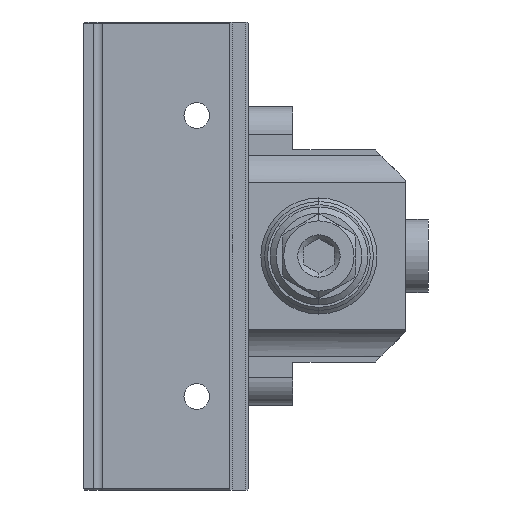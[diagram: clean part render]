
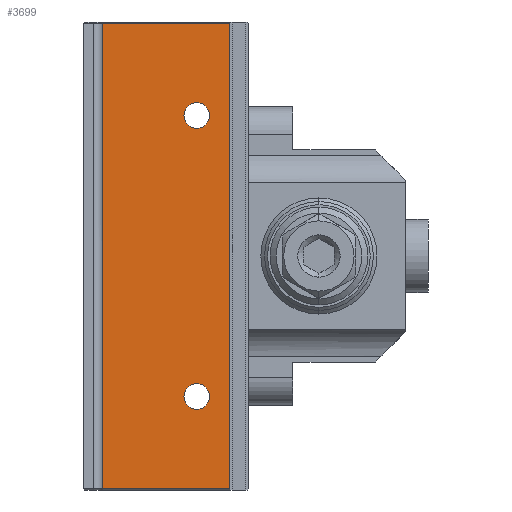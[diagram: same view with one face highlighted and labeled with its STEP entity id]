
A CAD part, left-side view. The second image highlights one B-rep face of the part: STEP entity #3699.
In plain terms, the highlighted planar face has unit normal (-1, 0, 0).
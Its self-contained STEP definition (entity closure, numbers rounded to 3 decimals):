
#40 = ORIENTED_EDGE ( 'NONE', *, *, #4952, .F. ) ;
#57 = FACE_OUTER_BOUND ( 'NONE', #3498, .T. ) ;
#356 = VECTOR ( 'NONE', #6939, 1000. ) ;
#478 = ORIENTED_EDGE ( 'NONE', *, *, #887, .F. ) ;
#540 = CARTESIAN_POINT ( 'NONE',  ( -11.5, 35.5, 38.3 ) ) ;
#541 = DIRECTION ( 'NONE',  ( -1., 0., 0. ) ) ;
#654 = DIRECTION ( 'NONE',  ( -1., 0., 0. ) ) ;
#683 = FACE_BOUND ( 'NONE', #6162, .T. ) ;
#694 = CARTESIAN_POINT ( 'NONE',  ( -11.5, 35.5, -38.1 ) ) ;
#718 = AXIS2_PLACEMENT_3D ( 'NONE', #2304, #654, #1752 ) ;
#856 = VECTOR ( 'NONE', #7240, 1000. ) ;
#887 = EDGE_CURVE ( 'NONE', #5915, #5629, #5281, .T. ) ;
#943 = EDGE_CURVE ( 'NONE', #4422, #5629, #5400, .T. ) ;
#957 = CIRCLE ( 'NONE', #718, 2.1 ) ;
#1229 = VERTEX_POINT ( 'NONE', #6513 ) ;
#1350 = CARTESIAN_POINT ( 'NONE',  ( -11.5, 4.25, -38.1 ) ) ;
#1488 = VECTOR ( 'NONE', #4681, 1000. ) ;
#1752 = DIRECTION ( 'NONE',  ( 0., 0., 1. ) ) ;
#1784 = DIRECTION ( 'NONE',  ( -1., 0., 0. ) ) ;
#1815 = CIRCLE ( 'NONE', #2051, 2.1 ) ;
#2051 = AXIS2_PLACEMENT_3D ( 'NONE', #6968, #541, #5656 ) ;
#2083 = VECTOR ( 'NONE', #7534, 1000. ) ;
#2304 = CARTESIAN_POINT ( 'NONE',  ( -11.5, 20., 23. ) ) ;
#2371 = CARTESIAN_POINT ( 'NONE',  ( -11.5, 14.7, 38.3 ) ) ;
#2372 = PLANE ( 'NONE',  #6230 ) ;
#2411 = FACE_BOUND ( 'NONE', #7101, .T. ) ;
#2473 = CARTESIAN_POINT ( 'NONE',  ( -11.5, 20., -23. ) ) ;
#2575 = AXIS2_PLACEMENT_3D ( 'NONE', #2473, #1784, #6444 ) ;
#2585 = CARTESIAN_POINT ( 'NONE',  ( -11.5, 20., 23. ) ) ;
#2803 = CIRCLE ( 'NONE', #2575, 2.1 ) ;
#3106 = CARTESIAN_POINT ( 'NONE',  ( -11.5, 14.7, 38.1 ) ) ;
#3361 = EDGE_CURVE ( 'NONE', #5915, #6729, #5588, .T. ) ;
#3402 = EDGE_CURVE ( 'NONE', #3982, #5954, #957, .T. ) ;
#3489 = ORIENTED_EDGE ( 'NONE', *, *, #4437, .F. ) ;
#3498 = EDGE_LOOP ( 'NONE', ( #478, #4795, #6473, #4315 ) ) ;
#3519 = CARTESIAN_POINT ( 'NONE',  ( -11.5, 20., -25.1 ) ) ;
#3628 = DIRECTION ( 'NONE',  ( 0., 0., 1. ) ) ;
#3693 = CARTESIAN_POINT ( 'NONE',  ( -11.5, 35.5, 38.1 ) ) ;
#3699 = ADVANCED_FACE ( 'NONE', ( #57, #2411, #683 ), #2372, .T. ) ;
#3903 = VERTEX_POINT ( 'NONE', #3519 ) ;
#3982 = VERTEX_POINT ( 'NONE', #6737 ) ;
#4230 = ORIENTED_EDGE ( 'NONE', *, *, #3402, .F. ) ;
#4315 = ORIENTED_EDGE ( 'NONE', *, *, #943, .T. ) ;
#4422 = VERTEX_POINT ( 'NONE', #694 ) ;
#4437 = EDGE_CURVE ( 'NONE', #1229, #3903, #2803, .T. ) ;
#4670 = CARTESIAN_POINT ( 'NONE',  ( -11.5, 14.7, -38.1 ) ) ;
#4674 = LINE ( 'NONE', #540, #2083 ) ;
#4681 = DIRECTION ( 'NONE',  ( 0., 0., -1. ) ) ;
#4795 = ORIENTED_EDGE ( 'NONE', *, *, #3361, .T. ) ;
#4952 = EDGE_CURVE ( 'NONE', #5954, #3982, #6249, .T. ) ;
#5133 = CARTESIAN_POINT ( 'NONE',  ( -11.5, 4.25, 38.1 ) ) ;
#5281 = LINE ( 'NONE', #2371, #1488 ) ;
#5400 = LINE ( 'NONE', #1350, #856 ) ;
#5402 = DIRECTION ( 'NONE',  ( -1., 0., 0. ) ) ;
#5588 = LINE ( 'NONE', #5133, #356 ) ;
#5629 = VERTEX_POINT ( 'NONE', #4670 ) ;
#5656 = DIRECTION ( 'NONE',  ( 0., 0., 1. ) ) ;
#5915 = VERTEX_POINT ( 'NONE', #3106 ) ;
#5954 = VERTEX_POINT ( 'NONE', #6568 ) ;
#6002 = AXIS2_PLACEMENT_3D ( 'NONE', #2585, #6604, #6015 ) ;
#6015 = DIRECTION ( 'NONE',  ( 0., 0., 1. ) ) ;
#6092 = ORIENTED_EDGE ( 'NONE', *, *, #7070, .F. ) ;
#6162 = EDGE_LOOP ( 'NONE', ( #3489, #6092 ) ) ;
#6230 = AXIS2_PLACEMENT_3D ( 'NONE', #6557, #5402, #3628 ) ;
#6249 = CIRCLE ( 'NONE', #6002, 2.1 ) ;
#6366 = EDGE_CURVE ( 'NONE', #6729, #4422, #4674, .T. ) ;
#6444 = DIRECTION ( 'NONE',  ( 0., 0., 1. ) ) ;
#6473 = ORIENTED_EDGE ( 'NONE', *, *, #6366, .T. ) ;
#6513 = CARTESIAN_POINT ( 'NONE',  ( -11.5, 20., -20.9 ) ) ;
#6557 = CARTESIAN_POINT ( 'NONE',  ( -11.5, 4.25, 24.4 ) ) ;
#6568 = CARTESIAN_POINT ( 'NONE',  ( -11.5, 20., 25.1 ) ) ;
#6604 = DIRECTION ( 'NONE',  ( -1., 0., 0. ) ) ;
#6729 = VERTEX_POINT ( 'NONE', #3693 ) ;
#6737 = CARTESIAN_POINT ( 'NONE',  ( -11.5, 20., 20.9 ) ) ;
#6939 = DIRECTION ( 'NONE',  ( 0., 1., 0. ) ) ;
#6968 = CARTESIAN_POINT ( 'NONE',  ( -11.5, 20., -23. ) ) ;
#7070 = EDGE_CURVE ( 'NONE', #3903, #1229, #1815, .T. ) ;
#7101 = EDGE_LOOP ( 'NONE', ( #40, #4230 ) ) ;
#7240 = DIRECTION ( 'NONE',  ( 0., -1., 0. ) ) ;
#7534 = DIRECTION ( 'NONE',  ( 0., 0., -1. ) ) ;
